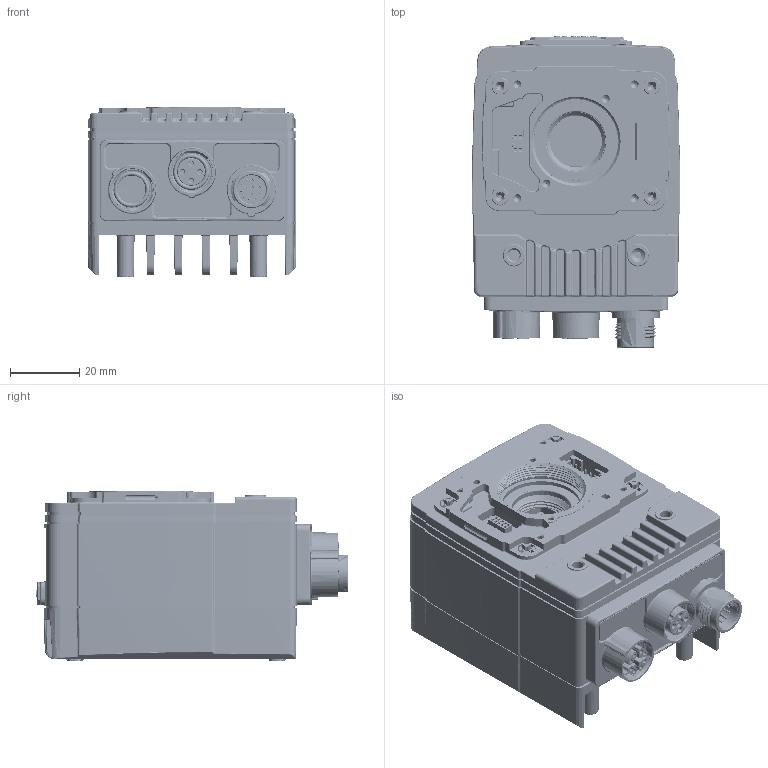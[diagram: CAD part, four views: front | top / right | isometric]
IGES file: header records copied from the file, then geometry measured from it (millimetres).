
Start section: SolidWorks IGES file using analytic representation for surfaces
Global section: file name: D:\Cog_Vault\Portland Vault\Projects\Marketing Graphics\IS016-09\IS016-09_3-21-18.IGS; native system: SolidWorks 2017; preprocessor: SolidWorks 2017; author: rgainer; date: 180330.111746; units: millimetre
Bounding box: 60.5 x 90.39 x 49.35 mm (x, y, z)
Surface area: 47511.5 mm2 (no closed solid volume)
Topology: 0 solids, 0 shells, 5493 faces, 50903 edges, 50760 vertices
Faces by surface type: bspline 3575, revolution 1918
